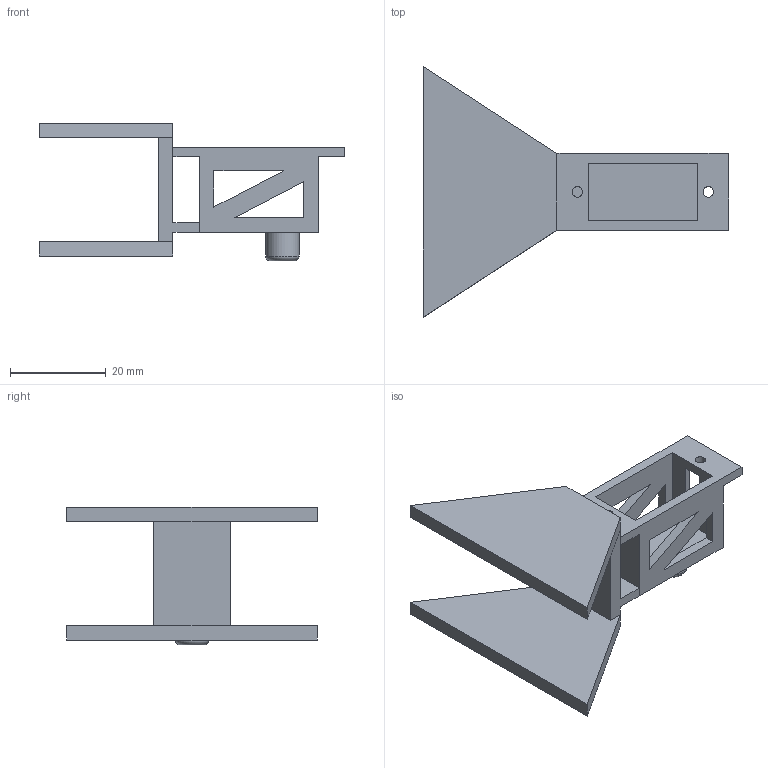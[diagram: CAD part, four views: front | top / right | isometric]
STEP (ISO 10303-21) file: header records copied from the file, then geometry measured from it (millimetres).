
FILE_DESCRIPTION(/* description */ (''),/* implementation_level */ '2;1');
FILE_NAME(/* name */ 'Shoulder Joint_v17.tmp.step',/* time_stamp */ '2026-11-01T13:11:39+02:00',/* author */ (''),/* organization */ (''),/* preprocessor_version */ 'ST-DEVELOPER v20.2',/* originating_system */ 'Autodesk Translation Framework v15.15.0.0',/* authorisation */ '');
FILE_SCHEMA (('AUTOMOTIVE_DESIGN { 1 0 10303 214 3 1 1 }'));
Length unit declared in the file: millimetre
Products named in the file (2): Shoulder Joint; Shoulder Servo Cage
Assembly tree (1 placements, depth 2):
  Shoulder Joint
    Shoulder Servo Cage
Bounding box: 64 x 52.43 x 28.8 mm (x, y, z)
Volume: 9761.8 mm3; surface area: 9282.3 mm2
Topology: 3 solids, 3 shells, 59 faces, 164 edges, 108 vertices
Faces by surface type: plane 55, cylinder 3, torus 1
Full cylindrical faces by diameter (mm): 2.2 x2, 7 x1
Entity records: 1940 total; most frequent: CARTESIAN_POINT 334, ORIENTED_EDGE 328, DIRECTION 297, EDGE_CURVE 164, LINE 155, VECTOR 155, VERTEX_POINT 108, EDGE_LOOP 72
